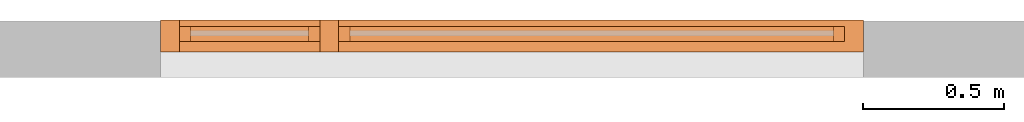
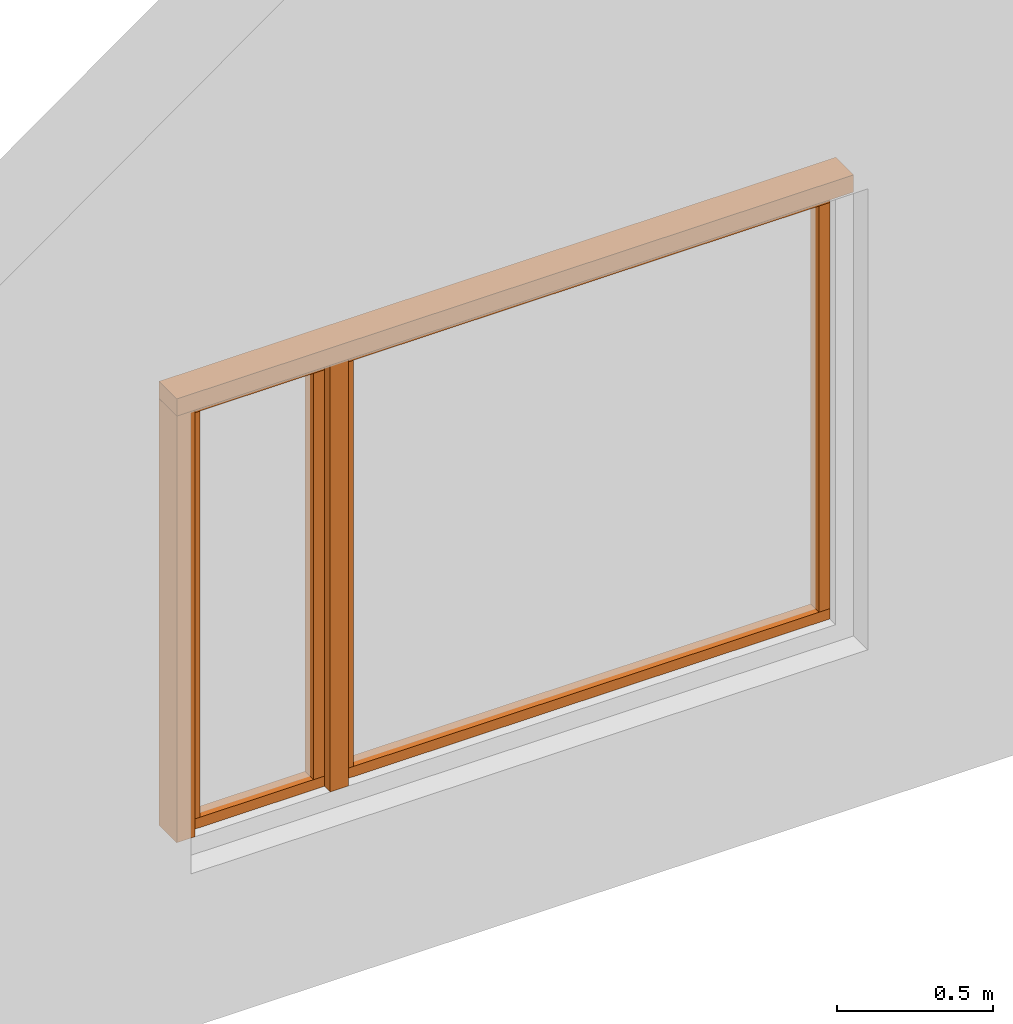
# One storey, part 3 of 3: 11 proxies.
"""IFC2X3 building model written with IfcOpenShell, lengths in millimetres."""

from ifc_helpers import new_model, entity, si_unit, converted_unit, derived_unit, direction, frame, frame_2d, origin, origin_2d_with_axis, place, context, subcontext, project, spatial, rectangle, extrude, source, transform, mapped, element, save


model = new_model("IFC2X3")

# Units and contexts
model_context = context("Model", 3, precision=0.01, world=origin(), true_north=direction((6.12303176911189e-17, 1.0)))
body_context = subcontext(model_context, "Body", "Model", "MODEL_VIEW")
ifc_project = project(units=[si_unit("LENGTHUNIT", "METRE", prefix="MILLI"), si_unit("AREAUNIT", "SQUARE_METRE"), si_unit("VOLUMEUNIT", "CUBIC_METRE"), converted_unit("PLANEANGLEUNIT", "DEGREE", entity("IfcRatioMeasure", 0.0174532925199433), si_unit("PLANEANGLEUNIT", "RADIAN"), dimensions=[0, 0, 0, 0, 0, 0, 0]), si_unit("MASSUNIT", "GRAM", prefix="KILO"), si_unit("TIMEUNIT", "SECOND"), si_unit("FREQUENCYUNIT", "HERTZ"), si_unit("THERMODYNAMICTEMPERATUREUNIT", "KELVIN"), derived_unit("THERMALTRANSMITTANCEUNIT", [(si_unit("MASSUNIT", "GRAM", prefix="KILO"), 1), (si_unit("THERMODYNAMICTEMPERATUREUNIT", "KELVIN"), -1), (si_unit("TIMEUNIT", "SECOND"), -3)]), derived_unit("VOLUMETRICFLOWRATEUNIT", [(si_unit("LENGTHUNIT", "METRE"), 3), (si_unit("TIMEUNIT", "SECOND"), -1)]), si_unit("ELECTRICCURRENTUNIT", "AMPERE"), si_unit("ELECTRICVOLTAGEUNIT", "VOLT"), si_unit("POWERUNIT", "WATT")], contexts=[model_context])

# Site, building, storey
site_placement = place(None, origin())
site = spatial("IfcSite", under=ifc_project, at=site_placement, Name="Default", CompositionType="ELEMENT")
building_placement = place(site_placement, origin())
building = spatial("IfcBuilding", under=site, at=building_placement, CompositionType="ELEMENT")
storey_placement = place(building_placement, origin())
storey = spatial("IfcBuildingStorey", under=building, at=storey_placement, Name="Level 1", CompositionType="ELEMENT", Elevation=0.0)

# Proxies
shared_shape_1 = source(origin(), body_context, "Body", "SweptSolid", [
    extrude(rectangle(XDim=2500.0, YDim=66.9999999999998, at=frame_2d((-1.13686837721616e-13, 0.0), x_axis=(1.0, 0.0))), frame((1250.0, 33.4999999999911, -114.0)), (0.0, 0.0, 1.0), 113.999999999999),
])
proxy_1_placement = place(storey_placement, frame((4215.62123039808, 1551.2183353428, 2400.0), z_axis=(0.0, -1.0, 0.0), x_axis=(-1.0, 0.0, 0.0)))
element("IfcBuildingElementProxy", 1, at=proxy_1_placement, inside=storey, Name="30_GM_LB_bovendorpel:30_GM_LB_bovendorpel", ObjectType="30_GM_LB_bovendorpel", CompositionType="ELEMENT", context=body_context, shape_type="MappedRepresentation", body=[
    mapped(shared_shape_1, transform((0.0, 0.0, 0.0), scale=1.0)),
])
shared_shape_2 = source(origin(), body_context, "Body", "SweptSolid", [
    extrude(rectangle(XDim=1666.0, YDim=66.9999999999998, at=origin_2d_with_axis()), frame((833.0, 33.4999999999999, 0.0)), (0.0, 0.0, 1.0), 113.999999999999),
])
proxy_2_placement = place(storey_placement, frame((1715.62123039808, 1665.21833534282, 2333.0), z_axis=(0.0, -1.0, 0.0), x_axis=(0.0, 0.0, -1.0)))
element("IfcBuildingElementProxy", 2, at=proxy_2_placement, inside=storey, Name="30_GM_LB_zijstijl_links:30_GM_LB_zijstijl_links", ObjectType="30_GM_LB_zijstijl_links", CompositionType="ELEMENT", context=body_context, shape_type="MappedRepresentation", body=[
    mapped(shared_shape_2, transform((0.0, 0.0, 0.0), scale=1.0)),
])
shared_shape_3 = source(origin(), body_context, "Body", "SweptSolid", [
    extrude(rectangle(XDim=1666.0, YDim=66.9999999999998, at=origin_2d_with_axis()), frame((833.0, 33.4999999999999, 0.0)), (0.0, 0.0, 1.0), 113.999999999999),
])
proxy_3_placement = place(storey_placement, frame((2282.12123039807, 1665.21833534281, 2333.0), z_axis=(0.0, -1.0, 0.0), x_axis=(0.0, 0.0, -1.0)))
element("IfcBuildingElementProxy", 3, at=proxy_3_placement, inside=storey, Name="30_GM_LB_tussenstijl:30_GM_LB_tussenstijl", ObjectType="30_GM_LB_tussenstijl", CompositionType="ELEMENT", context=body_context, shape_type="MappedRepresentation", body=[
    mapped(shared_shape_3, transform((0.0, 0.0, 0.0), scale=1.0)),
])
shared_shape_4 = source(origin(), body_context, "Body", "SweptSolid", [
    extrude(rectangle(XDim=499.5, YDim=40.0000000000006, at=frame_2d((2.8421709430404e-14, 0.0), x_axis=(1.0, 0.0))), frame((249.750000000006, 20.0, -54.0)), (0.0, 0.0, 1.0), 54.0000000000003),
])
for number, where, z_axis, x_axis in (
    (4, (2282.12123039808, 1588.21833534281, 2333.0), (0.0, -1.0, 0.0), (-1.0, 0.0, 0.0)),
    (5, (1782.62123039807, 1588.21833534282, 667.0), (0.0, -1.0, 0.0), (1.0, 0.0, 0.0)),
):
    element("IfcBuildingElementProxy", number, at=place(storey_placement, frame(where, z_axis=z_axis, x_axis=x_axis)), inside=storey, Name="30_GM_LB_raamhout:30_GM_LB_raamhout", ObjectType="30_GM_LB_raamhout", CompositionType="ELEMENT", context=body_context, shape_type="MappedRepresentation", body=[
        mapped(shared_shape_4, transform((0.0, 0.0, 0.0), scale=1.0)),
    ])
shared_shape_5 = source(origin(), body_context, "Body", "SweptSolid", [
    extrude(rectangle(XDim=1586.0, YDim=40.0000000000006, at=frame_2d((-1.70530256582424e-13, 0.0), x_axis=(1.0, 0.0))), frame((793.0, 20.0, -54.0)), (0.0, 0.0, 1.0), 54.0000000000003),
])
for number, where, z_axis, x_axis in (
    (6, (1782.62123039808, 1588.21833534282, 2293.0), (0.0, -1.0, 0.0), (0.0, 0.0, -1.0)),
    (7, (2282.12123039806, 1588.21833534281, 707.0), (0.0, -1.0, 0.0), (0.0, 0.0, 1.0)),
    (8, (2349.12123039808, 1588.21833534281, 2293.0), (0.0, -1.0, 0.0), (0.0, 0.0, -1.0)),
    (9, (4148.62123039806, 1588.2183353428, 707.0), (0.0, -1.0, 0.0), (0.0, 0.0, 1.0)),
):
    element("IfcBuildingElementProxy", number, at=place(storey_placement, frame(where, z_axis=z_axis, x_axis=x_axis)), inside=storey, Name="30_GM_LB_raamhout:30_GM_LB_raamhout", ObjectType="30_GM_LB_raamhout", CompositionType="ELEMENT", context=body_context, shape_type="MappedRepresentation", body=[
        mapped(shared_shape_5, transform((0.0, 0.0, 0.0), scale=1.0)),
    ])
shared_shape_6 = source(origin(), body_context, "Body", "SweptSolid", [
    extrude(rectangle(XDim=1799.5, YDim=40.0000000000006, at=frame_2d((-1.13686837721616e-13, 0.0), x_axis=(1.0, 0.0))), frame((899.750000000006, 20.0, -54.0)), (0.0, 0.0, 1.0), 54.0000000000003),
])
for number, where, z_axis, x_axis in (
    (10, (4148.62123039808, 1588.2183353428, 2333.0), (0.0, -1.0, 0.0), (-1.0, 0.0, 0.0)),
    (11, (2349.12123039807, 1588.21833534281, 667.0), (0.0, -1.0, 0.0), (1.0, 0.0, 0.0)),
):
    element("IfcBuildingElementProxy", number, at=place(storey_placement, frame(where, z_axis=z_axis, x_axis=x_axis)), inside=storey, Name="30_GM_LB_raamhout:30_GM_LB_raamhout", ObjectType="30_GM_LB_raamhout", CompositionType="ELEMENT", context=body_context, shape_type="MappedRepresentation", body=[
        mapped(shared_shape_6, transform((0.0, 0.0, 0.0), scale=1.0)),
    ])

save(model, "model.ifc")
